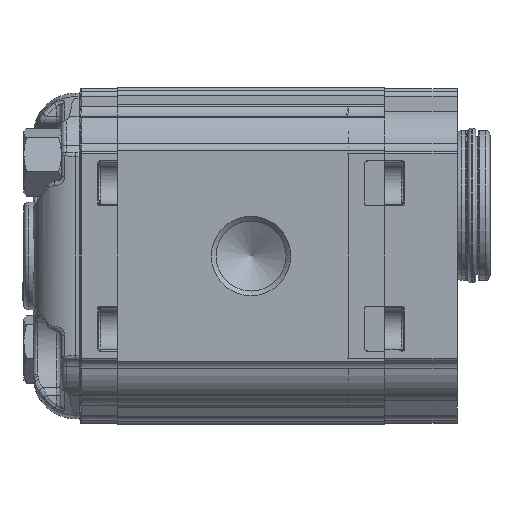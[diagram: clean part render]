
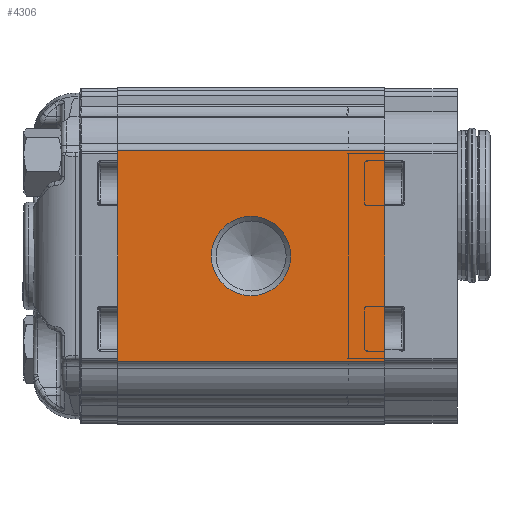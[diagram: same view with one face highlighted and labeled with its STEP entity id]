
A CAD part, left-side view. The second image highlights one B-rep face of the part: STEP entity #4306.
In plain terms, the highlighted planar face has unit normal (-1, 0, 0).
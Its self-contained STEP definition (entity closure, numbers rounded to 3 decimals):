
#4306 = ADVANCED_FACE( '', ( #9355, #9356 ), #9357, .T. );
#9355 = FACE_BOUND( '', #17688, .T. );
#9356 = FACE_OUTER_BOUND( '', #17689, .T. );
#9357 = PLANE( '', #17690 );
#17688 = EDGE_LOOP( '', ( #31632 ) );
#17689 = EDGE_LOOP( '', ( #31633, #31634, #31635, #31636 ) );
#17690 = AXIS2_PLACEMENT_3D( '', #31637, #31638, #31639 );
#31632 = ORIENTED_EDGE( '', *, *, #42239, .F. );
#31633 = ORIENTED_EDGE( '', *, *, #39867, .T. );
#31634 = ORIENTED_EDGE( '', *, *, #42205, .T. );
#31635 = ORIENTED_EDGE( '', *, *, #42240, .T. );
#31636 = ORIENTED_EDGE( '', *, *, #42241, .F. );
#31637 = CARTESIAN_POINT( '', ( -33., 130.814, 48.138 ) );
#31638 = DIRECTION( '', ( -1., 0., 0. ) );
#31639 = DIRECTION( '', ( 0., 0., 1. ) );
#39867 = EDGE_CURVE( '', #48231, #48232, #48233, .T. );
#42205 = EDGE_CURVE( '', #48232, #51321, #51323, .T. );
#42239 = EDGE_CURVE( '', #51362, #51362, #51363, .F. );
#42240 = EDGE_CURVE( '', #51321, #51364, #51365, .F. );
#42241 = EDGE_CURVE( '', #48231, #51364, #51366, .T. );
#48231 = VERTEX_POINT( '', #62243 );
#48232 = VERTEX_POINT( '', #62244 );
#48233 = LINE( '', #62245, #62246 );
#51321 = VERTEX_POINT( '', #69290 );
#51323 = LINE( '', #69292, #69293 );
#51362 = VERTEX_POINT( '', #69371 );
#51363 = CIRCLE( '', #69372, 8.475 );
#51364 = VERTEX_POINT( '', #69373 );
#51365 = LINE( '', #69374, #69375 );
#51366 = LINE( '', #69376, #69377 );
#62243 = CARTESIAN_POINT( '', ( -33., 57., -22.5 ) );
#62244 = CARTESIAN_POINT( '', ( -33., 0., -22.5 ) );
#62245 = CARTESIAN_POINT( '', ( -33., 57., -22.5 ) );
#62246 = VECTOR( '', #74904, 1000. );
#69290 = CARTESIAN_POINT( '', ( -33., 0., 22.5 ) );
#69292 = CARTESIAN_POINT( '', ( -33., 0., -21.711 ) );
#69293 = VECTOR( '', #77322, 1000. );
#69371 = CARTESIAN_POINT( '', ( -33., 28.5, -8.475 ) );
#69372 = AXIS2_PLACEMENT_3D( '', #77358, #77359, #77360 );
#69373 = CARTESIAN_POINT( '', ( -33., 57., 22.5 ) );
#69374 = CARTESIAN_POINT( '', ( -33., 57., 22.5 ) );
#69375 = VECTOR( '', #77361, 1000. );
#69376 = CARTESIAN_POINT( '', ( -33., 57., -21.711 ) );
#69377 = VECTOR( '', #77362, 1000. );
#74904 = DIRECTION( '', ( 0., -1., 0. ) );
#77322 = DIRECTION( '', ( 0., 0., 1. ) );
#77358 = CARTESIAN_POINT( '', ( -33., 28.5, 0. ) );
#77359 = DIRECTION( '', ( 1., 0., 0. ) );
#77360 = DIRECTION( '', ( 0., 0., -1. ) );
#77361 = DIRECTION( '', ( 0., -1., 0. ) );
#77362 = DIRECTION( '', ( 0., 0., 1. ) );
